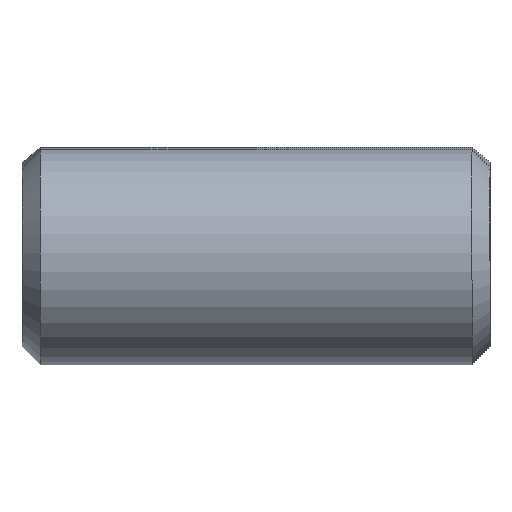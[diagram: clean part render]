
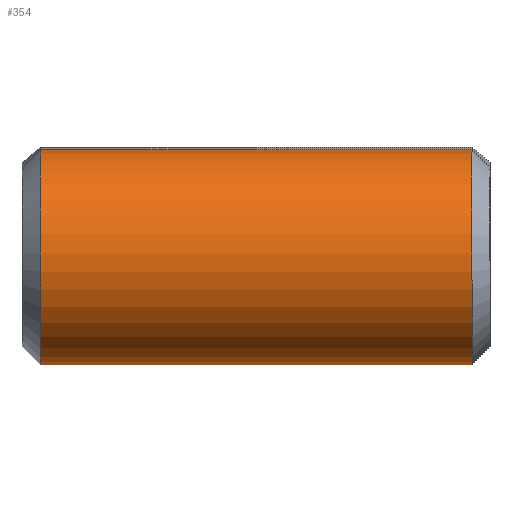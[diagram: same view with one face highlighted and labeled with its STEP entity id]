
A CAD part, left-side view. The second image highlights one B-rep face of the part: STEP entity #354.
In plain terms, the highlighted cylindrical face has radius 6 mm (diameter 12 mm), a partial arc.
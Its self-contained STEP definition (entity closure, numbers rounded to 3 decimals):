
#19=CYLINDRICAL_SURFACE('',#395,6.);
#33=CIRCLE('',#393,6.);
#35=CIRCLE('',#396,6.);
#52=FACE_OUTER_BOUND('',#76,.T.);
#76=EDGE_LOOP('',(#305,#306,#307,#308));
#107=LINE('',#561,#144);
#112=LINE('',#575,#149);
#144=VECTOR('',#453,10.);
#149=VECTOR('',#468,10.);
#175=VERTEX_POINT('',#549);
#178=VERTEX_POINT('',#557);
#181=VERTEX_POINT('',#569);
#182=VERTEX_POINT('',#573);
#215=EDGE_CURVE('',#178,#175,#107,.T.);
#222=EDGE_CURVE('',#182,#181,#112,.T.);
#227=EDGE_CURVE('',#182,#175,#33,.T.);
#229=EDGE_CURVE('',#178,#181,#35,.T.);
#305=ORIENTED_EDGE('',*,*,#227,.T.);
#306=ORIENTED_EDGE('',*,*,#215,.F.);
#307=ORIENTED_EDGE('',*,*,#229,.T.);
#308=ORIENTED_EDGE('',*,*,#222,.F.);
#354=ADVANCED_FACE('',(#52),#19,.T.);
#393=AXIS2_PLACEMENT_3D('',#585,#481,#482);
#395=AXIS2_PLACEMENT_3D('',#587,#485,#486);
#396=AXIS2_PLACEMENT_3D('',#588,#487,#488);
#453=DIRECTION('',(0.,-1.,0.));
#468=DIRECTION('',(0.,1.,0.));
#481=DIRECTION('center_axis',(0.,1.,0.));
#482=DIRECTION('ref_axis',(0.,0.,-1.));
#485=DIRECTION('center_axis',(0.,-1.,0.));
#486=DIRECTION('ref_axis',(0.,0.,-1.));
#487=DIRECTION('center_axis',(0.,-1.,0.));
#488=DIRECTION('ref_axis',(0.,0.,-1.));
#549=CARTESIAN_POINT('',(47.967,-12.,44.967));
#557=CARTESIAN_POINT('',(47.967,12.,44.967));
#561=CARTESIAN_POINT('',(47.967,13.,44.967));
#569=CARTESIAN_POINT('',(49.637,12.,33.084));
#573=CARTESIAN_POINT('',(49.637,-12.,33.084));
#575=CARTESIAN_POINT('',(49.637,3.,33.084));
#585=CARTESIAN_POINT('Origin',(48.802,-12.,39.026));
#587=CARTESIAN_POINT('Origin',(48.802,3.,39.026));
#588=CARTESIAN_POINT('Origin',(48.802,12.,39.026));
